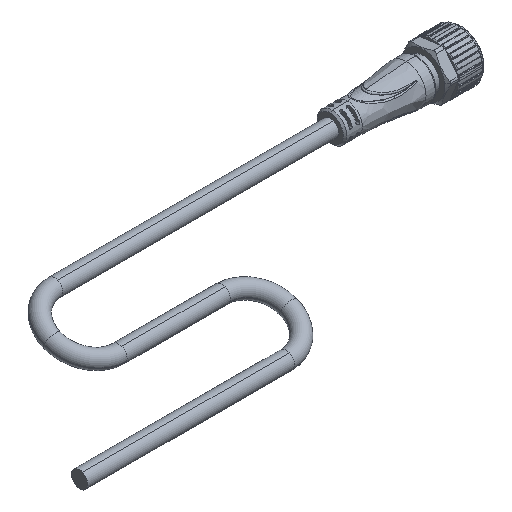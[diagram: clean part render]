
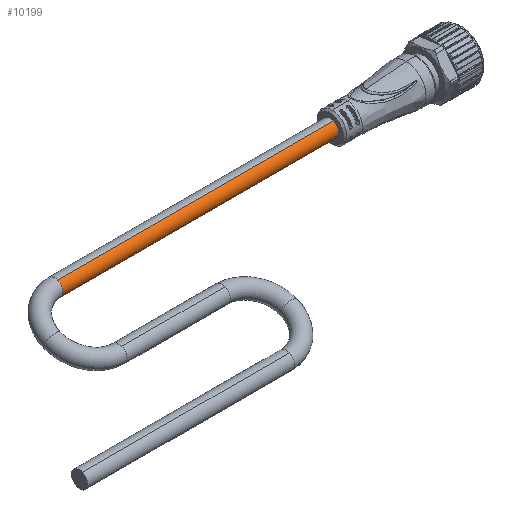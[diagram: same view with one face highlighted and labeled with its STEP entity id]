
A CAD part, isometric view. The second image highlights one B-rep face of the part: STEP entity #10199.
In plain terms, the highlighted cylindrical face has radius 2.4 mm (diameter 4.8 mm), a partial arc.
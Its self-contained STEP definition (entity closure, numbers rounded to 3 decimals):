
#124 = CARTESIAN_POINT ( 'NONE',  ( -2.4, 40., 0. ) ) ;
#308 = CARTESIAN_POINT ( 'NONE',  ( 0., 40., -90. ) ) ;
#557 = ORIENTED_EDGE ( 'NONE', *, *, #30101, .F. ) ;
#1698 = VERTEX_POINT ( 'NONE', #31033 ) ;
#2727 = EDGE_CURVE ( 'NONE', #36016, #19925, #45630, .T. ) ;
#3682 = CARTESIAN_POINT ( 'NONE',  ( 0., 40., 0. ) ) ;
#4026 = CARTESIAN_POINT ( 'NONE',  ( 0., 37.6, 0. ) ) ;
#6947 = DIRECTION ( 'NONE',  ( -1., 0., 0. ) ) ;
#8825 = DIRECTION ( 'NONE',  ( -1., 0., 0. ) ) ;
#9206 = AXIS2_PLACEMENT_3D ( 'NONE', #27970, #10222, #13950 ) ;
#9774 = DIRECTION ( 'NONE',  ( 0., 0., -1. ) ) ;
#10199 = ADVANCED_FACE ( 'NONE', ( #20917 ), #21602, .T. ) ;
#10222 = DIRECTION ( 'NONE',  ( 0., 0., -1. ) ) ;
#10625 = EDGE_CURVE ( 'NONE', #46167, #17159, #25659, .T. ) ;
#11759 = CARTESIAN_POINT ( 'NONE',  ( -2.4, 40., 0. ) ) ;
#12455 = ORIENTED_EDGE ( 'NONE', *, *, #30211, .T. ) ;
#13950 = DIRECTION ( 'NONE',  ( -1., 0., 0. ) ) ;
#16755 = ORIENTED_EDGE ( 'NONE', *, *, #2727, .T. ) ;
#17159 = VERTEX_POINT ( 'NONE', #40521 ) ;
#17280 = AXIS2_PLACEMENT_3D ( 'NONE', #22506, #36756, #27558 ) ;
#19925 = VERTEX_POINT ( 'NONE', #11759 ) ;
#20917 = FACE_OUTER_BOUND ( 'NONE', #37838, .T. ) ;
#21379 = DIRECTION ( 'NONE',  ( 0., 0., -1. ) ) ;
#21602 = CYLINDRICAL_SURFACE ( 'NONE', #37518, 2.4 ) ;
#22506 = CARTESIAN_POINT ( 'NONE',  ( 0., 40., 0. ) ) ;
#22792 = CARTESIAN_POINT ( 'NONE',  ( 2.4, 40., -90. ) ) ;
#25272 = LINE ( 'NONE', #124, #41381 ) ;
#25659 = CIRCLE ( 'NONE', #37557, 2.4 ) ;
#27558 = DIRECTION ( 'NONE',  ( -1., 0., 0. ) ) ;
#27730 = CARTESIAN_POINT ( 'NONE',  ( 2.4, 40., 0. ) ) ;
#27970 = CARTESIAN_POINT ( 'NONE',  ( 0., 40., 0. ) ) ;
#30101 = EDGE_CURVE ( 'NONE', #1698, #46167, #41525, .T. ) ;
#30211 = EDGE_CURVE ( 'NONE', #1698, #36016, #37511, .T. ) ;
#30800 = VECTOR ( 'NONE', #9774, 1000. ) ;
#31033 = CARTESIAN_POINT ( 'NONE',  ( 2.4, 40., 0. ) ) ;
#32028 = DIRECTION ( 'NONE',  ( 0., 0., -1. ) ) ;
#34798 = EDGE_CURVE ( 'NONE', #19925, #17159, #25272, .T. ) ;
#36016 = VERTEX_POINT ( 'NONE', #4026 ) ;
#36756 = DIRECTION ( 'NONE',  ( 0., 0., -1. ) ) ;
#36826 = DIRECTION ( 'NONE',  ( 0., 0., -1. ) ) ;
#37511 = CIRCLE ( 'NONE', #9206, 2.4 ) ;
#37518 = AXIS2_PLACEMENT_3D ( 'NONE', #3682, #21379, #6947 ) ;
#37557 = AXIS2_PLACEMENT_3D ( 'NONE', #308, #36826, #8825 ) ;
#37838 = EDGE_LOOP ( 'NONE', ( #557, #12455, #16755, #41977, #41675 ) ) ;
#40521 = CARTESIAN_POINT ( 'NONE',  ( -2.4, 40., -90. ) ) ;
#41381 = VECTOR ( 'NONE', #32028, 1000. ) ;
#41525 = LINE ( 'NONE', #27730, #30800 ) ;
#41675 = ORIENTED_EDGE ( 'NONE', *, *, #10625, .F. ) ;
#41977 = ORIENTED_EDGE ( 'NONE', *, *, #34798, .T. ) ;
#45630 = CIRCLE ( 'NONE', #17280, 2.4 ) ;
#46167 = VERTEX_POINT ( 'NONE', #22792 ) ;
